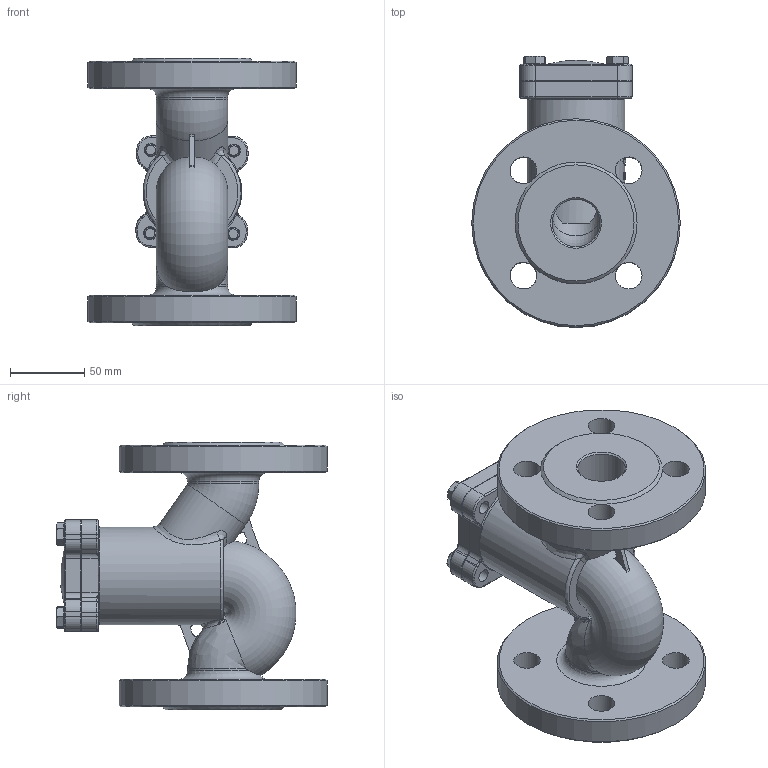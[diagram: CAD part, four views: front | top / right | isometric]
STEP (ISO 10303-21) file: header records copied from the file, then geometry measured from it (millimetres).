
FILE_DESCRIPTION(('STEP AP214'), '1');
FILE_NAME('VCR3131-F 孰囡囗 钺疣蝽 DN.ru 捏32 畜40', '', ('UNSPECIFIED'), ('UNSPECIFIED'), 'C3D Converter', 'C3D Toolkit', '');
FILE_SCHEMA(('AUTOMOTIVE_DESIGN { 1 0 10303 214 3 1 1}'));
Length unit declared in the file: millimetre
Products named in the file (1): VCR3131-F
Bounding box: 140 x 182 x 180 mm (x, y, z)
Volume: 1062061.4 mm3; surface area: 160016.8 mm2
Topology: 1 solids, 1 shells, 371 faces, 938 edges, 581 vertices
Faces by surface type: plane 148, cylinder 94, bspline 48, torus 44, cone 36, sphere 1
Full cylindrical faces by diameter (mm): 8 x4, 8.751 x8, 13 x4, 15 x1, 18 x8, 32 x3, 48 x2, 65.723 x1, 140 x2
Entity records: 21583 total; most frequent: CARTESIAN_POINT 10869, ORIENTED_EDGE 1750, DIRECTION 1693, EDGE_CURVE 875, AXIS2_PLACEMENT_3D 698, VERTEX_POINT 577, EDGE_LOOP 478, FACE_BOUND 424
